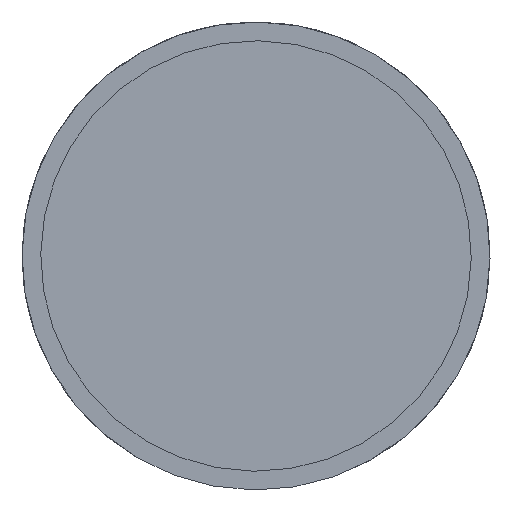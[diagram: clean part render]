
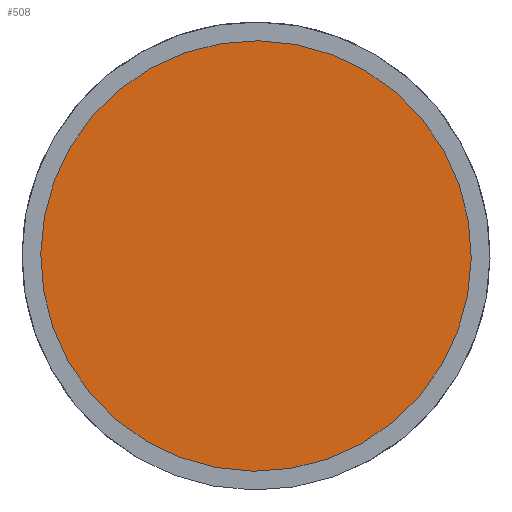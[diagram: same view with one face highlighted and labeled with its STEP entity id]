
A CAD part, left-side view. The second image highlights one B-rep face of the part: STEP entity #508.
In plain terms, the highlighted planar face has unit normal (-1, 0, 0).
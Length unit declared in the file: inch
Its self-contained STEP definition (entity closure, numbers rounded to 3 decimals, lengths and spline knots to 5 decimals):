
#6 = AXIS2_PLACEMENT_3D ( 'NONE', #970, #971, #972 ) ;
#49 = EDGE_CURVE ( 'NONE', #231, #230, #1027, .T. ) ;
#100 = EDGE_CURVE ( 'NONE', #230, #231, #883, .T. ) ;
#126 = AXIS2_PLACEMENT_3D ( 'NONE', #312, #313, #314 ) ;
#184 = AXIS2_PLACEMENT_3D ( 'NONE', #441, #442, #443 ) ;
#230 = VERTEX_POINT ( 'NONE', #430 ) ;
#231 = VERTEX_POINT ( 'NONE', #429 ) ;
#312 = CARTESIAN_POINT ( 'NONE',  ( -4.22503, 0.5789, 0. ) ) ;
#313 = DIRECTION ( 'NONE',  ( -1., 0., 0. ) ) ;
#314 = DIRECTION ( 'NONE',  ( 0., -0.012, 1. ) ) ;
#429 = CARTESIAN_POINT ( 'NONE',  ( -4.22503, 0.58435, -0.45997 ) ) ;
#430 = CARTESIAN_POINT ( 'NONE',  ( -4.22503, 0.57345, 0.45997 ) ) ;
#432 = PLANE ( 'NONE',  #184 ) ;
#441 = CARTESIAN_POINT ( 'NONE',  ( -4.22503, 0.84389, 0.00314 ) ) ;
#442 = DIRECTION ( 'NONE',  ( -1., 0., 0. ) ) ;
#443 = DIRECTION ( 'NONE',  ( 0., -0.012, 1. ) ) ;
#508 = ADVANCED_FACE ( 'NONE', ( #814 ), #432, .T. ) ;
#595 = ORIENTED_EDGE ( 'NONE', *, *, #100, .T. ) ;
#597 = ORIENTED_EDGE ( 'NONE', *, *, #49, .T. ) ;
#814 = FACE_OUTER_BOUND ( 'NONE', #819, .T. ) ;
#819 = EDGE_LOOP ( 'NONE', ( #595, #597 ) ) ;
#883 = CIRCLE ( 'NONE', #126, 0.46 ) ;
#970 = CARTESIAN_POINT ( 'NONE',  ( -4.22503, 0.5789, 0. ) ) ;
#971 = DIRECTION ( 'NONE',  ( -1., 0., 0. ) ) ;
#972 = DIRECTION ( 'NONE',  ( 0., -0.012, 1. ) ) ;
#1027 = CIRCLE ( 'NONE', #6, 0.46 ) ;
